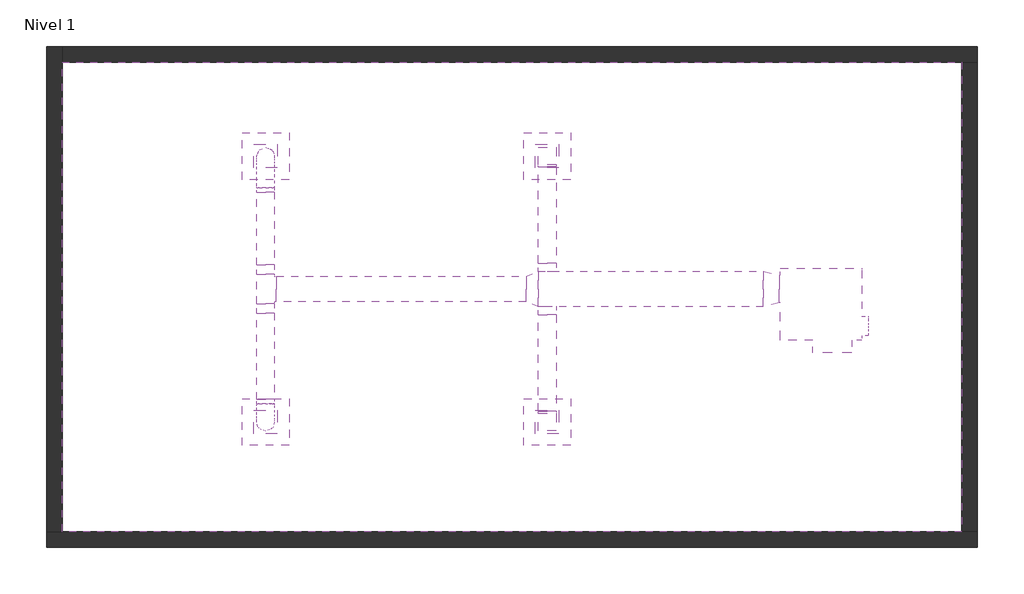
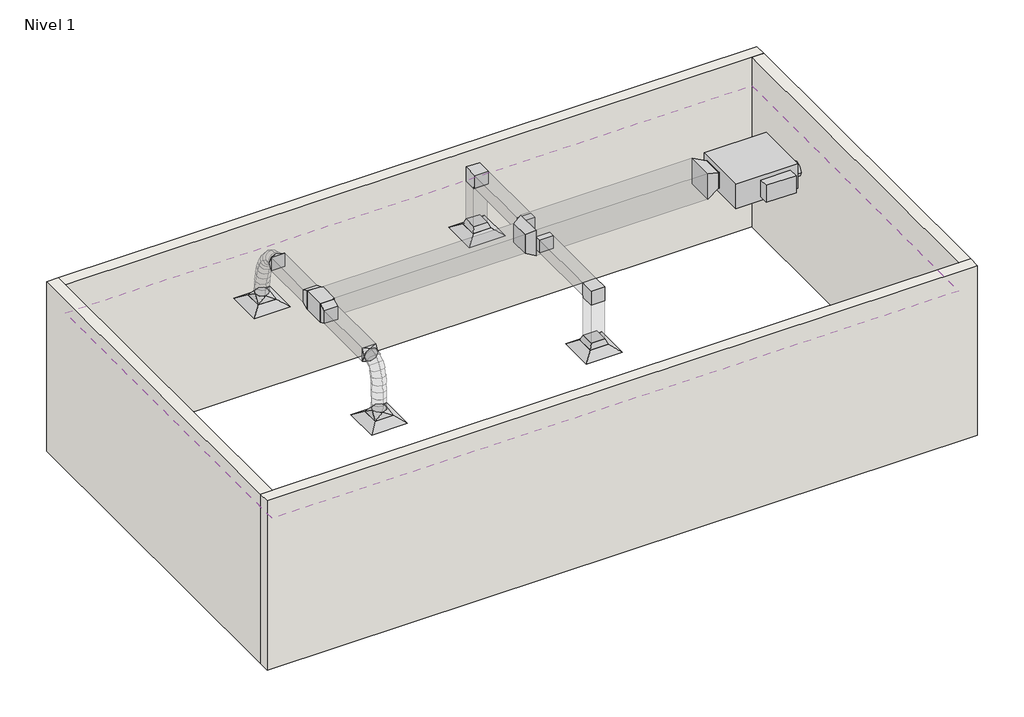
# One storey: 15 duct fittings, 10 duct segments, 4 air terminals, 4 walls, 1 covering, 1 proxy.
"""IFC4 building model written with IfcOpenShell, lengths in millimetres."""

from ifc_helpers import new_model, si_unit, frame, origin, origin_with_axes, place, context, project, spatial, polyline, circle_curve, ellipse_curve, outline, extrude, faceted_brep, transform, mapped, element, save
from ifc_brep_helpers import plane_surface, cylinder_surface, advanced_brep
from components import air_terminal_ff221211, mechanical_equipment_cafec42d, duct_fitting_45_grados_29309759, duct_fitting_45_grados_a4e4c17c, duct_fitting_45_grados_9b682b84, duct_fitting_45_grados_17163ae1, duct_fitting_45_grados_72c16622, duct_fitting_45_grados_1f0bbba1, norma_8356d3b3, norma_0cd4d4be, norma_4c01d837, norma_9371bbf1

model = new_model("IFC4")

# Units and contexts
model_context = context("Model", 3, world=origin())
ifc_project = project(units=[si_unit("LENGTHUNIT", "METRE", prefix="MILLI")], contexts=[model_context])

# Site, building, storey
site = spatial("IfcSite", under=ifc_project)
building = spatial("IfcBuilding", under=site)
storey = spatial("IfcBuildingStorey", under=building, Name="Nivel 1", Elevation=0.0)

# Air terminals
placement = place(None, origin())
air_terminal_shape = air_terminal_ff221211(model_context)
element("IfcAirTerminal", 1, ObjectType="M_Difusor de suministro : Cara 600 x 600 Conexión 300 x 300", at=placement, inside=storey, context=model_context, shape_type="MappedRepresentation", body=[
    mapped(air_terminal_shape, transform((-116.1538462, 5337.3397436, 2500.0), x_axis=(1.0, 0.0, 0.0), y_axis=(0.0, 1.0, 0.0), z_axis=(0.0, 0.0, 1.0))),
])
element("IfcAirTerminal", 2, ObjectType="M_Difusor de suministro : Cara 600 x 600 Conexión 300 x 300", at=placement, inside=storey, context=model_context, shape_type="MappedRepresentation", body=[
    mapped(air_terminal_shape, transform((3483.8461538, 5337.3397436, 2500.0), x_axis=(1.0, 0.0, 0.0), y_axis=(0.0, 1.0, 0.0), z_axis=(0.0, 0.0, 1.0))),
])
element("IfcAirTerminal", 3, ObjectType="M_Difusor de suministro : Cara 600 x 600 Conexión 300 x 300", at=placement, inside=storey, context=model_context, shape_type="MappedRepresentation", body=[
    mapped(air_terminal_shape, transform((3483.8461538, 1937.3397436, 2500.0), x_axis=(1.0, 0.0, 0.0), y_axis=(0.0, 1.0, 0.0), z_axis=(0.0, 0.0, 1.0))),
])
element("IfcAirTerminal", 4, ObjectType="M_Difusor de suministro : Cara 600 x 600 Conexión 300 x 300", at=placement, inside=storey, context=model_context, shape_type="MappedRepresentation", body=[
    mapped(air_terminal_shape, transform((-116.1538462, 1937.3397436, 2500.0), x_axis=(1.0, 0.0, 0.0), y_axis=(0.0, 1.0, 0.0), z_axis=(0.0, 0.0, 1.0))),
])

# Proxy
mechanical_equipment_shape = mechanical_equipment_cafec42d(model_context)
element("IfcBuildingElementProxy", 5, Name="M_Unidad VAV - Alimentada por ventilador paralelo : Tamaño 4 - Entrada 250 mm", ObjectType="M_Unidad VAV - Alimentada por ventilador paralelo : Tamaño 4 - Entrada 250 mm", at=placement, inside=storey, context=model_context, shape_type="MappedRepresentation", body=[
    mapped(mechanical_equipment_shape, transform((6983.8461538, 3442.3397436, 3500.0), x_axis=(-1.0, 0.0, 0.0), y_axis=(0.0, -1.0, 0.0), z_axis=(0.0, 0.0, 1.0))),
])

# Covering
element("IfcCovering", 6, ObjectType="Rejilla 600 x 600 mm", at=placement, inside=storey, context=model_context, shape_type="SweptSolid", body=[
    extrude(outline(polyline([(8783.8461538, 537.3397436), (-2716.1538462, 537.3397436), (-2716.1538462, 6537.3397436), (8783.8461538, 6537.3397436), (8783.8461538, 537.3397436)])), frame((0.0, 0.0, 2500.0), z_axis=(0.0, 0.0, 1.0), x_axis=(1.0, 0.0, 0.0)), (0.0, 0.0, 1.0), 52.0),
])

# Duct fittings
duct_fitting_45_grados_shape = duct_fitting_45_grados_29309759(model_context)
element("IfcDuctFitting", 7, ObjectType="M_Transición rectangular - Ángulo : 45 grados", at=placement, inside=storey, context=model_context, shape_type="MappedRepresentation", body=[
    mapped(duct_fitting_45_grados_shape, transform((6448.8461538, 3637.3397436, 3500.0), x_axis=(-1.0, 0.0, 0.0), y_axis=(0.0, -1.0, 0.0), z_axis=(0.0, 0.0, 1.0))),
])
duct_fitting_45_grados_2_shape = duct_fitting_45_grados_a4e4c17c(model_context)
element("IfcDuctFitting", 8, ObjectType="M_Transición rectangular - Ángulo : 45 grados", at=placement, inside=storey, context=model_context, shape_type="MappedRepresentation", body=[
    mapped(duct_fitting_45_grados_2_shape, transform((3483.8461538, 5337.3397436, 2601.6), x_axis=(0.0, 0.0, 1.0), y_axis=(1.0, 0.0, 0.0), z_axis=(0.0, 1.0, 0.0))),
])
element("IfcDuctFitting", 9, ObjectType="M_Transición rectangular - Ángulo : 45 grados", at=placement, inside=storey, context=model_context, shape_type="MappedRepresentation", body=[
    mapped(duct_fitting_45_grados_2_shape, transform((3483.8461538, 1937.3397436, 2601.6), x_axis=(0.0, 0.0, 1.0), y_axis=(1.0, 0.0, 0.0), z_axis=(0.0, 1.0, 0.0))),
])
duct_fitting_45_grados_3_shape = duct_fitting_45_grados_9b682b84(model_context)
element("IfcDuctFitting", 10, ObjectType="M_Transición rectangular - Ángulo : 45 grados", at=placement, inside=storey, context=model_context, shape_type="MappedRepresentation", body=[
    mapped(duct_fitting_45_grados_3_shape, transform((3366.638001, 3637.3397436, 3500.0), x_axis=(-1.0, 0.0, 0.0), y_axis=(0.0, -1.0, 0.0), z_axis=(0.0, 0.0, 1.0))),
])
duct_fitting_45_grados_4_shape = duct_fitting_45_grados_17163ae1(model_context)
element("IfcDuctFitting", 11, ObjectType="M_Transición de rectangular a redondo - Ángulo : 45 grados", at=placement, inside=storey, context=model_context, shape_type="MappedRepresentation", body=[
    mapped(duct_fitting_45_grados_4_shape, transform((-116.1538462, 4874.8397436, 3500.0), x_axis=(0.0, 1.0, 0.0), y_axis=(-1.0, 0.0, 0.0), z_axis=(0.0, 0.0, 1.0))),
])
element("IfcDuctFitting", 12, ObjectType="M_Transición de rectangular a redondo - Ángulo : 45 grados", at=placement, inside=storey, context=model_context, shape_type="MappedRepresentation", body=[
    mapped(duct_fitting_45_grados_4_shape, transform((-116.1538462, 2229.1290655, 3500.0), x_axis=(0.0, -1.0, 0.0), y_axis=(1.0, 0.0, 0.0), z_axis=(0.0, 0.0, 1.0))),
])
duct_fitting_45_grados_5_shape = duct_fitting_45_grados_72c16622(model_context)
element("IfcDuctFitting", 13, ObjectType="M_Transición de rectangular a redondo - Ángulo : 45 grados", at=placement, inside=storey, context=model_context, shape_type="MappedRepresentation", body=[
    mapped(duct_fitting_45_grados_5_shape, transform((-116.1538462, 5337.3397436, 2601.6), x_axis=(0.0, 0.0, 1.0), y_axis=(-1.0, 0.0, 0.0), z_axis=(0.0, -1.0, 0.0))),
])
element("IfcDuctFitting", 14, ObjectType="M_Transición de rectangular a redondo - Ángulo : 45 grados", at=placement, inside=storey, context=model_context, shape_type="MappedRepresentation", body=[
    mapped(duct_fitting_45_grados_5_shape, transform((-116.1538462, 1937.3397436, 2601.6), x_axis=(0.0, 0.0, 1.0), y_axis=(-1.0, 0.0, 0.0), z_axis=(0.0, -1.0, 0.0))),
])
duct_fitting_45_grados_6_shape = duct_fitting_45_grados_1f0bbba1(model_context)
element("IfcDuctFitting", 15, ObjectType="M_Transición rectangular - Ángulo : 45 grados", at=placement, inside=storey, context=model_context, shape_type="MappedRepresentation", body=[
    mapped(duct_fitting_45_grados_6_shape, transform((-116.1538462, 3824.8397436, 3500.0), x_axis=(0.0, 1.0, 0.0), y_axis=(-1.0, 0.0, 0.0), z_axis=(0.0, 0.0, 1.0))),
])
element("IfcDuctFitting", 16, ObjectType="M_Transición rectangular - Ángulo : 45 grados", at=placement, inside=storey, context=model_context, shape_type="MappedRepresentation", body=[
    mapped(duct_fitting_45_grados_6_shape, transform((-116.1538462, 3449.8397436, 3500.0), x_axis=(0.0, -1.0, 0.0), y_axis=(1.0, 0.0, 0.0), z_axis=(0.0, 0.0, 1.0))),
])
norma_shape = norma_8356d3b3(model_context)
element("IfcDuctFitting", 17, ObjectType="M_Codo rectangular - Biselado : Norma", at=placement, inside=storey, context=model_context, shape_type="MappedRepresentation", body=[
    mapped(norma_shape, transform((3483.8461538, 5337.3397436, 3500.0), x_axis=(0.0, 0.0, 1.0), y_axis=(0.0, -1.0, 0.0), z_axis=(1.0, 0.0, 0.0))),
])
element("IfcDuctFitting", 18, ObjectType="M_Codo rectangular - Biselado : Norma", at=placement, inside=storey, context=model_context, shape_type="MappedRepresentation", body=[
    mapped(norma_shape, transform((3483.8461538, 1937.3397436, 3500.0), x_axis=(0.0, 0.0, 1.0), y_axis=(0.0, 1.0, 0.0), z_axis=(-1.0, 0.0, 0.0))),
])
norma_2_shape = norma_0cd4d4be(model_context)
element("IfcDuctFitting", 19, ObjectType="M_Toma de derivación rectangular : Norma", at=placement, inside=storey, context=model_context, shape_type="MappedRepresentation", body=[
    mapped(norma_2_shape, transform((3483.8461538, 3862.3397436, 3500.0), x_axis=(0.0, 1.0, 0.0), y_axis=(1.0, 0.0, 0.0), z_axis=(0.0, 0.0, -1.0))),
])
norma_3_shape = norma_4c01d837(model_context)
element("IfcDuctFitting", 20, ObjectType="M_Toma de derivación rectangular : Norma", at=placement, inside=storey, context=model_context, shape_type="MappedRepresentation", body=[
    mapped(norma_3_shape, transform((3483.8461538, 3412.3397436, 3500.0), x_axis=(0.0, -1.0, 0.0), y_axis=(-1.0, 0.0, 0.0), z_axis=(0.0, 0.0, -1.0))),
])
norma_4_shape = norma_9371bbf1(model_context)
element("IfcDuctFitting", 21, ObjectType="M_Te rectangular : Norma", at=placement, inside=storey, context=model_context, shape_type="MappedRepresentation", body=[
    mapped(norma_4_shape, transform((-116.1538462, 3637.3397436, 3500.0), x_axis=(0.0, 1.0, 0.0), y_axis=(-1.0, 0.0, 0.0), z_axis=(0.0, 0.0, 1.0))),
])

# Duct segments
element("IfcDuctSegment", 22, ObjectType="Codos en ángulo recto / Injertos", at=placement, inside=storey, context=model_context, shape_type="SweptSolid", body=[
    extrude(outline(polyline([(3371.3461538, 5199.8397436), (3596.3461538, 5199.8397436), (3596.3461538, 3963.9397436), (3371.3461538, 3963.9397436), (3371.3461538, 5199.8397436)])), frame((0.0, 0.0, 3387.5), z_axis=(0.0, 0.0, 1.0), x_axis=(1.0, 0.0, 0.0)), (0.0, 0.0, 1.0), 225.0),
])
element("IfcDuctSegment", 23, ObjectType="Codos en ángulo recto / Injertos", at=placement, inside=storey, context=model_context, shape_type="SweptSolid", body=[
    extrude(outline(polyline([(3596.3461538, 5224.8397436), (3371.3461538, 5224.8397436), (3371.3461538, 5449.8397436), (3596.3461538, 5449.8397436), (3596.3461538, 5224.8397436)])), frame((0.0, 0.0, 2692.1330086), z_axis=(0.0, 0.0, 1.0), x_axis=(1.0, 0.0, 0.0)), (0.0, 0.0, 1.0), 670.3669914),
])
element("IfcDuctSegment", 24, ObjectType="Codos en ángulo recto / Injertos", at=placement, inside=storey, context=model_context, shape_type="SweptSolid", body=[
    extrude(outline(polyline([(3596.3461538, 1824.8397436), (3371.3461538, 1824.8397436), (3371.3461538, 2049.8397436), (3596.3461538, 2049.8397436), (3596.3461538, 1824.8397436)])), frame((0.0, 0.0, 2692.1330086), z_axis=(0.0, 0.0, 1.0), x_axis=(1.0, 0.0, 0.0)), (0.0, 0.0, 1.0), 670.3669914),
])
element("IfcDuctSegment", 25, ObjectType="Codos en ángulo recto / Injertos", at=placement, inside=storey, context=model_context, shape_type="SweptSolid", body=[
    extrude(outline(polyline([(3596.3461538, 2074.8397436), (3371.3461538, 2074.8397436), (3371.3461538, 3310.7397436), (3596.3461538, 3310.7397436), (3596.3461538, 2074.8397436)])), frame((0.0, 0.0, 3387.5), z_axis=(0.0, 0.0, 1.0), x_axis=(1.0, 0.0, 0.0)), (0.0, 0.0, 1.0), 225.0),
])
element("IfcDuctSegment", 26, ObjectType="Codos en ángulo recto / Injertos", at=placement, inside=storey, context=model_context, shape_type="SweptSolid", body=[
    extrude(outline(polyline([(3215.7496534, 3799.8397436), (3215.7496534, 3474.8397436), (21.3461538, 3474.8397436), (21.3461538, 3799.8397436), (3215.7496534, 3799.8397436)])), frame((0.0, 0.0, 3337.5), z_axis=(0.0, 0.0, 1.0), x_axis=(1.0, 0.0, 0.0)), (0.0, 0.0, 1.0), 325.0),
])
element("IfcDuctSegment", 27, ObjectType="Codos en ángulo recto / Injertos", at=placement, inside=storey, context=model_context, shape_type="SweptSolid", body=[
    extrude(outline(polyline([(6243.638001, 3862.3397436), (6243.638001, 3412.3397436), (3366.638001, 3412.3397436), (3366.638001, 3862.3397436), (6243.638001, 3862.3397436)])), frame((0.0, 0.0, 3275.0), z_axis=(0.0, 0.0, 1.0), x_axis=(1.0, 0.0, 0.0)), (0.0, 0.0, 1.0), 450.0),
])
element("IfcDuctSegment", 28, ObjectType="Codos en ángulo recto / Injertos", at=placement, inside=storey, context=model_context, shape_type="SweptSolid", body=[
    extrude(outline(polyline([(-3.6538462, 3945.5504217), (-228.6538462, 3945.5504217), (-228.6538462, 4874.8397436), (-3.6538462, 4874.8397436), (-3.6538462, 3945.5504217)])), frame((0.0, 0.0, 3387.5), z_axis=(0.0, 0.0, 1.0), x_axis=(1.0, 0.0, 0.0)), (0.0, 0.0, 1.0), 225.0),
])
element("IfcDuctSegment", 29, ObjectType="Codos en ángulo recto / Injertos", at=placement, inside=storey, context=model_context, shape_type="SweptSolid", body=[
    extrude(outline(polyline([(-3.6538462, 2229.1290655), (-228.6538462, 2229.1290655), (-228.6538462, 3329.1290655), (-3.6538462, 3329.1290655), (-3.6538462, 2229.1290655)])), frame((0.0, 0.0, 3387.5), z_axis=(0.0, 0.0, 1.0), x_axis=(1.0, 0.0, 0.0)), (0.0, 0.0, 1.0), 225.0),
])
element("IfcDuctSegment", 30, ObjectType="Flex - Redondo", at=placement, inside=storey, context=model_context, shape_type="AdvancedBrep", body=[
    advanced_brep(
    [(-228.6538462, 4931.0897436, 3500.0), (-116.1538462, 4931.0897436, 3387.5), (-3.6538462, 4931.0897436, 3500.0), (-116.1538462, 4931.0897436, 3612.5), (-228.6538462, 4952.1472058, 3500.0), (-116.1538462, 4938.5090863, 3387.5), (-3.6538462, 4952.1472058, 3500.0), (-116.1538462, 4965.7853253, 3612.5), (-228.6538462, 5337.3397436, 2692.1330086), (-116.1538462, 5449.8397436, 2692.1330086), (-3.6538462, 5337.3397436, 2692.1330086), (-116.1538462, 5224.8397436, 2692.1330086), (-228.6538462, 5024.4079335, 3482.2186749), (-116.1538462, 4980.1765558, 3377.2468121), (-3.6538462, 5024.4079335, 3482.2186749), (-116.1538462, 5068.6393112, 3587.1905378), (-228.6538462, 5103.9190822, 3432.778529), (-116.1538462, 5030.5140084, 3345.9469121), (-3.6538462, 5103.9190822, 3432.778529), (-116.1538462, 5177.3241561, 3519.6101458), (-228.6538462, 5170.3784252, 3357.535306), (-116.1538462, 5078.3546044, 3291.7832615), (-3.6538462, 5170.3784252, 3357.535306), (-116.1538462, 5262.402246, 3423.2873505), (-228.6538462, 5224.5411977, 3262.3447499), (-116.1538462, 5122.7084, 3213.8318887), (-3.6538462, 5224.5411977, 3262.3447499), (-116.1538462, 5326.3739954, 3310.8576111), (-228.6538462, 5267.1626353, 3153.0626046), (-116.1538462, 5160.1563788, 3117.8145863), (-3.6538462, 5267.1626353, 3153.0626046), (-116.1538462, 5374.1688918, 3188.3106228), (-228.6538462, 5298.9979733, 3035.5446139), (-116.1538462, 5189.1659159, 3010.7278479), (-3.6538462, 5298.9979733, 3035.5446139), (-116.1538462, 5408.8300307, 3060.3613798), (-228.6538462, 5320.802447, 2915.6465217), (-116.1538462, 5209.3859614, 2899.5421845), (-3.6538462, 5320.802447, 2915.6465217), (-116.1538462, 5432.2189327, 2931.750859), (-228.6538462, 5333.331292, 2799.224072), (-116.1538462, 5221.0661251, 2791.0059812), (-3.6538462, 5333.331292, 2799.224072), (-116.1538462, 5445.596459, 2807.4421628), (-228.6538462, 5337.3397436, 2696.3409716), (-116.1538462, 5224.8397436, 2694.1502338), (-3.6538462, 5337.3397436, 2696.3409716), (-116.1538462, 5449.8397436, 2698.5317094)],
    [
        (0, 1, circle_curve(frame((-116.1538462, 4931.0897436, 3500.0), z_axis=(0.0, -1.0, 0.0), x_axis=(-1.0, 0.0, 0.0)), 112.5)),
        (1, 2, circle_curve(frame((-116.1538462, 4931.0897436, 3500.0), z_axis=(0.0, -1.0, 0.0), x_axis=(-1.0, 0.0, 0.0)), 112.5)),
        (2, 3, circle_curve(frame((-116.1538462, 4931.0897436, 3500.0), z_axis=(0.0, -1.0, 0.0), x_axis=(-1.0, 0.0, 0.0)), 112.5)),
        (3, 0, circle_curve(frame((-116.1538462, 4931.0897436, 3500.0), z_axis=(0.0, -1.0, 0.0), x_axis=(-1.0, 0.0, 0.0)), 112.5)),
        (0, 4),
        (4, 5, ellipse_curve(frame((-116.1538462, 4952.1472058, 3500.0), z_axis=(0.0, -0.9927319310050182, 0.12034663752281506), x_axis=(0.0, -0.12034663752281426, -0.9927319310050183)), 113.3236441, 112.5)),
        (5, 1),
        (5, 6, ellipse_curve(frame((-116.1538462, 4952.1472058, 3500.0), z_axis=(0.0, -0.9927319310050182, 0.12034663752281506), x_axis=(0.0, -0.12034663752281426, -0.9927319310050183)), 113.3236441, 112.5)),
        (6, 2),
        (6, 7, ellipse_curve(frame((-116.1538462, 4952.1472058, 3500.0), z_axis=(0.0, -0.9927319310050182, 0.12034663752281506), x_axis=(0.0, -0.12034663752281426, -0.9927319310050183)), 113.3236441, 112.5)),
        (7, 3),
        (7, 4, ellipse_curve(frame((-116.1538462, 4952.1472058, 3500.0), z_axis=(0.0, -0.9927319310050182, 0.12034663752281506), x_axis=(0.0, -0.12034663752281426, -0.9927319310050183)), 113.3236441, 112.5)),
        (8, 9, circle_curve(frame((-116.1538462, 5337.3397436, 2692.1330086), z_axis=(0.0, 0.0, -1.0), x_axis=(-1.0, 0.0, 0.0)), 112.5)),
        (9, 10, circle_curve(frame((-116.1538462, 5337.3397436, 2692.1330086), z_axis=(0.0, 0.0, -1.0), x_axis=(-1.0, 0.0, 0.0)), 112.5)),
        (10, 11, circle_curve(frame((-116.1538462, 5337.3397436, 2692.1330086), z_axis=(0.0, 0.0, -1.0), x_axis=(-1.0, 0.0, 0.0)), 112.5)),
        (11, 8, circle_curve(frame((-116.1538462, 5337.3397436, 2692.1330086), z_axis=(0.0, 0.0, -1.0), x_axis=(-1.0, 0.0, 0.0)), 112.5)),
        (4, 12),
        (12, 13, ellipse_curve(frame((-116.1538462, 5024.4079335, 3482.2186749), z_axis=(0.0, -0.9215326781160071, 0.3883008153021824), x_axis=(0.0, -0.3883008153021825, -0.9215326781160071)), 113.9100819, 112.5)),
        (13, 5),
        (13, 14, ellipse_curve(frame((-116.1538462, 5024.4079335, 3482.2186749), z_axis=(0.0, -0.9215326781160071, 0.3883008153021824), x_axis=(0.0, -0.3883008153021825, -0.9215326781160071)), 113.9100819, 112.5)),
        (14, 6),
        (14, 15, ellipse_curve(frame((-116.1538462, 5024.4079335, 3482.2186749), z_axis=(0.0, -0.9215326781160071, 0.3883008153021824), x_axis=(0.0, -0.3883008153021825, -0.9215326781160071)), 113.9100819, 112.5)),
        (15, 7),
        (15, 12, ellipse_curve(frame((-116.1538462, 5024.4079335, 3482.2186749), z_axis=(0.0, -0.9215326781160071, 0.3883008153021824), x_axis=(0.0, -0.3883008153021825, -0.9215326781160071)), 113.9100819, 112.5)),
        (12, 16),
        (16, 17, ellipse_curve(frame((-116.1538462, 5103.9190822, 3432.778529), z_axis=(0.0, -0.7636803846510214, 0.6455945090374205), x_axis=(0.0, -0.6455945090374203, -0.7636803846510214)), 113.7015152, 112.5)),
        (17, 13),
        (17, 18, ellipse_curve(frame((-116.1538462, 5103.9190822, 3432.778529), z_axis=(0.0, -0.7636803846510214, 0.6455945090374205), x_axis=(0.0, -0.6455945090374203, -0.7636803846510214)), 113.7015152, 112.5)),
        (18, 14),
        (18, 19, ellipse_curve(frame((-116.1538462, 5103.9190822, 3432.778529), z_axis=(0.0, -0.7636803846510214, 0.6455945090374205), x_axis=(0.0, -0.6455945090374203, -0.7636803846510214)), 113.7015152, 112.5)),
        (19, 15),
        (19, 16, ellipse_curve(frame((-116.1538462, 5103.9190822, 3432.778529), z_axis=(0.0, -0.7636803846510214, 0.6455945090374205), x_axis=(0.0, -0.6455945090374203, -0.7636803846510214)), 113.7015152, 112.5)),
        (16, 20),
        (20, 21, ellipse_curve(frame((-116.1538462, 5170.3784252, 3357.535306), z_axis=(0.0, -0.5813596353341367, 0.8136467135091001), x_axis=(0.0, -0.8136467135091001, -0.5813596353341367)), 113.100464, 112.5)),
        (21, 17),
        (21, 22, ellipse_curve(frame((-116.1538462, 5170.3784252, 3357.535306), z_axis=(0.0, -0.5813596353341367, 0.8136467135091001), x_axis=(0.0, -0.8136467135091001, -0.5813596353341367)), 113.100464, 112.5)),
        (22, 18),
        (22, 23, ellipse_curve(frame((-116.1538462, 5170.3784252, 3357.535306), z_axis=(0.0, -0.5813596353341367, 0.8136467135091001), x_axis=(0.0, -0.8136467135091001, -0.5813596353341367)), 113.100464, 112.5)),
        (23, 19),
        (23, 20, ellipse_curve(frame((-116.1538462, 5170.3784252, 3357.535306), z_axis=(0.0, -0.5813596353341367, 0.8136467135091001), x_axis=(0.0, -0.8136467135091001, -0.5813596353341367)), 113.100464, 112.5)),
        (20, 24),
        (24, 25, ellipse_curve(frame((-116.1538462, 5224.5411977, 3262.3447499), z_axis=(0.0, -0.4300857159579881, 0.9027880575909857), x_axis=(0.0, -0.9027880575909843, -0.43008571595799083)), 112.7981223, 112.5)),
        (25, 21),
        (25, 26, ellipse_curve(frame((-116.1538462, 5224.5411977, 3262.3447499), z_axis=(0.0, -0.4300857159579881, 0.9027880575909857), x_axis=(0.0, -0.9027880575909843, -0.43008571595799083)), 112.7981223, 112.5)),
        (26, 22),
        (26, 27, ellipse_curve(frame((-116.1538462, 5224.5411977, 3262.3447499), z_axis=(0.0, -0.4300857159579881, 0.9027880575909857), x_axis=(0.0, -0.9027880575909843, -0.43008571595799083)), 112.7981223, 112.5)),
        (27, 23),
        (27, 24, ellipse_curve(frame((-116.1538462, 5224.5411977, 3262.3447499), z_axis=(0.0, -0.4300857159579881, 0.9027880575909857), x_axis=(0.0, -0.9027880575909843, -0.43008571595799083)), 112.7981223, 112.5)),
        (24, 28),
        (28, 29, ellipse_curve(frame((-116.1538462, 5267.1626353, 3153.0626046), z_axis=(0.0, -0.3128647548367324, 0.949797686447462), x_axis=(0.0, -0.9497976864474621, -0.31286475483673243)), 112.6621574, 112.5)),
        (29, 25),
        (29, 30, ellipse_curve(frame((-116.1538462, 5267.1626353, 3153.0626046), z_axis=(0.0, -0.3128647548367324, 0.949797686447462), x_axis=(0.0, -0.9497976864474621, -0.31286475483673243)), 112.6621574, 112.5)),
        (30, 26),
        (30, 31, ellipse_curve(frame((-116.1538462, 5267.1626353, 3153.0626046), z_axis=(0.0, -0.3128647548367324, 0.949797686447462), x_axis=(0.0, -0.9497976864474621, -0.31286475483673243)), 112.6621574, 112.5)),
        (31, 27),
        (31, 28, ellipse_curve(frame((-116.1538462, 5267.1626353, 3153.0626046), z_axis=(0.0, -0.3128647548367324, 0.949797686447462), x_axis=(0.0, -0.9497976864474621, -0.31286475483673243)), 112.6621574, 112.5)),
        (28, 32),
        (32, 33, ellipse_curve(frame((-116.1538462, 5298.9979733, 3035.5446139), z_axis=(0.0, -0.22039589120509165, 0.9754105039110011), x_axis=(0.0, -0.975410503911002, -0.22039589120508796)), 112.6008557, 112.5)),
        (33, 29),
        (33, 34, ellipse_curve(frame((-116.1538462, 5298.9979733, 3035.5446139), z_axis=(0.0, -0.22039589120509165, 0.9754105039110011), x_axis=(0.0, -0.975410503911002, -0.22039589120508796)), 112.6008557, 112.5)),
        (34, 30),
        (34, 35, ellipse_curve(frame((-116.1538462, 5298.9979733, 3035.5446139), z_axis=(0.0, -0.22039589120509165, 0.9754105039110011), x_axis=(0.0, -0.975410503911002, -0.22039589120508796)), 112.6008557, 112.5)),
        (35, 31),
        (35, 32, ellipse_curve(frame((-116.1538462, 5298.9979733, 3035.5446139), z_axis=(0.0, -0.22039589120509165, 0.9754105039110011), x_axis=(0.0, -0.975410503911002, -0.22039589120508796)), 112.6008557, 112.5)),
        (32, 36),
        (36, 37, ellipse_curve(frame((-116.1538462, 5320.802447, 2915.6465217), z_axis=(0.0, -0.14305512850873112, 0.9897147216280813), x_axis=(0.0, -0.9897147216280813, -0.14305512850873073)), 112.5743441, 112.5)),
        (37, 33),
        (37, 38, ellipse_curve(frame((-116.1538462, 5320.802447, 2915.6465217), z_axis=(0.0, -0.14305512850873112, 0.9897147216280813), x_axis=(0.0, -0.9897147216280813, -0.14305512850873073)), 112.5743441, 112.5)),
        (38, 34),
        (38, 39, ellipse_curve(frame((-116.1538462, 5320.802447, 2915.6465217), z_axis=(0.0, -0.14305512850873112, 0.9897147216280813), x_axis=(0.0, -0.9897147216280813, -0.14305512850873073)), 112.5743441, 112.5)),
        (39, 35),
        (39, 36, ellipse_curve(frame((-116.1538462, 5320.802447, 2915.6465217), z_axis=(0.0, -0.14305512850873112, 0.9897147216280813), x_axis=(0.0, -0.9897147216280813, -0.14305512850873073)), 112.5743441, 112.5)),
        (36, 40),
        (40, 41, ellipse_curve(frame((-116.1538462, 5333.331292, 2799.224072), z_axis=(0.0, -0.07300715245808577, 0.9973314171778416), x_axis=(0.0, -0.9973314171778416, -0.07300715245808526)), 112.5655575, 112.5)),
        (41, 37),
        (41, 42, ellipse_curve(frame((-116.1538462, 5333.331292, 2799.224072), z_axis=(0.0, -0.07300715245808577, 0.9973314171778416), x_axis=(0.0, -0.9973314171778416, -0.07300715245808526)), 112.5655575, 112.5)),
        (42, 38),
        (42, 43, ellipse_curve(frame((-116.1538462, 5333.331292, 2799.224072), z_axis=(0.0, -0.07300715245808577, 0.9973314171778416), x_axis=(0.0, -0.9973314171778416, -0.07300715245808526)), 112.5655575, 112.5)),
        (43, 39),
        (43, 40, ellipse_curve(frame((-116.1538462, 5333.331292, 2799.224072), z_axis=(0.0, -0.07300715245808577, 0.9973314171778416), x_axis=(0.0, -0.9973314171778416, -0.07300715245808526)), 112.5655575, 112.5)),
        (40, 44),
        (44, 45, ellipse_curve(frame((-116.1538462, 5337.3397436, 2696.3409716), z_axis=(0.0, -0.019469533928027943, 0.9998104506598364), x_axis=(0.0, -0.9998104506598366, -0.01946953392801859)), 112.5213283, 112.5)),
        (45, 41),
        (45, 46, ellipse_curve(frame((-116.1538462, 5337.3397436, 2696.3409716), z_axis=(0.0, -0.019469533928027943, 0.9998104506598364), x_axis=(0.0, -0.9998104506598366, -0.01946953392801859)), 112.5213283, 112.5)),
        (46, 42),
        (46, 47, ellipse_curve(frame((-116.1538462, 5337.3397436, 2696.3409716), z_axis=(0.0, -0.019469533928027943, 0.9998104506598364), x_axis=(0.0, -0.9998104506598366, -0.01946953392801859)), 112.5213283, 112.5)),
        (47, 43),
        (47, 44, ellipse_curve(frame((-116.1538462, 5337.3397436, 2696.3409716), z_axis=(0.0, -0.019469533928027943, 0.9998104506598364), x_axis=(0.0, -0.9998104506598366, -0.01946953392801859)), 112.5213283, 112.5)),
        (44, 8),
        (11, 45),
        (10, 46),
        (9, 47),
    ],
    [
        plane_surface(frame((-228.6538462, 4931.0897436, 3500.0), z_axis=(0.0, -1.0, 0.0), x_axis=(0.0, 0.0, 1.0))),
        cylinder_surface(frame((-116.1538462, 4931.0897436, 3500.0), z_axis=(0.0, -1.0, 0.0), x_axis=(-1.0, 0.0, 0.0)), 112.5),
        plane_surface(frame((-116.1538462, 5224.8397436, 2692.1330086), z_axis=(0.0, 0.0, -1.0), x_axis=(-1.0, 0.0, 0.0))),
        cylinder_surface(frame((-116.1538462, 4952.1472058, 3500.0), z_axis=(0.0, -0.9710333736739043, 0.23894389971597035), x_axis=(-1.0, 0.0, 0.0)), 112.5),
        cylinder_surface(frame((-116.1538462, 5024.4079335, 3482.2186749), z_axis=(0.0, -0.8492168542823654, 0.5280442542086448), x_axis=(-1.0, 0.0, 0.0)), 112.5),
        cylinder_surface(frame((-116.1538462, 5103.9190822, 3432.778529), z_axis=(0.0, -0.6620038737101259, 0.7495004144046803), x_axis=(-1.0, 0.0, 0.0)), 112.5),
        cylinder_surface(frame((-116.1538462, 5170.3784252, 3357.535306), z_axis=(0.0, -0.49454238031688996, 0.869153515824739), x_axis=(-1.0, 0.0, 0.0)), 112.5),
        cylinder_surface(frame((-116.1538462, 5224.5411977, 3262.3447499), z_axis=(0.0, -0.3633556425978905, 0.9316505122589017), x_axis=(-1.0, 0.0, 0.0)), 112.5),
        cylinder_surface(frame((-116.1538462, 5267.1626353, 3153.0626046), z_axis=(0.0, -0.2614732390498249, 0.9652107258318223), x_axis=(-1.0, 0.0, 0.0)), 112.5),
        cylinder_surface(frame((-116.1538462, 5298.9979733, 3035.5446139), z_axis=(0.0, -0.17892372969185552, 0.9838629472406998), x_axis=(-1.0, 0.0, 0.0)), 112.5),
        cylinder_surface(frame((-116.1538462, 5320.802447, 2915.6465217), z_axis=(0.0, -0.10699758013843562, 0.9942592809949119), x_axis=(-1.0, 0.0, 0.0)), 112.5),
        cylinder_surface(frame((-116.1538462, 5333.331292, 2799.224072), z_axis=(0.0, -0.03893168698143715, 0.9992418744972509), x_axis=(-1.0, 0.0, 0.0)), 112.5),
        cylinder_surface(frame((-116.1538462, 5337.3397436, 2696.3409716), z_axis=(0.0, 0.0, 1.0), x_axis=(-1.0, 0.0, 0.0)), 112.5),
    ],
    [
        (0, [[1, 2, 3, 4]]),
        (1, [[-1, 5, 6, 7]]),
        (1, [[-2, -7, 8, 9]]),
        (1, [[-3, -9, 10, 11]]),
        (1, [[-4, -11, 12, -5]]),
        (2, [[13, 14, 15, 16]]),
        (3, [[-6, 17, 18, 19]]),
        (3, [[-8, -19, 20, 21]]),
        (3, [[-10, -21, 22, 23]]),
        (3, [[-12, -23, 24, -17]]),
        (4, [[-18, 25, 26, 27]]),
        (4, [[-20, -27, 28, 29]]),
        (4, [[-22, -29, 30, 31]]),
        (4, [[-24, -31, 32, -25]]),
        (5, [[-26, 33, 34, 35]]),
        (5, [[-28, -35, 36, 37]]),
        (5, [[-30, -37, 38, 39]]),
        (5, [[-32, -39, 40, -33]]),
        (6, [[-34, 41, 42, 43]]),
        (6, [[-36, -43, 44, 45]]),
        (6, [[-38, -45, 46, 47]]),
        (6, [[-40, -47, 48, -41]]),
        (7, [[-42, 49, 50, 51]]),
        (7, [[-44, -51, 52, 53]]),
        (7, [[-46, -53, 54, 55]]),
        (7, [[-48, -55, 56, -49]]),
        (8, [[-50, 57, 58, 59]]),
        (8, [[-52, -59, 60, 61]]),
        (8, [[-54, -61, 62, 63]]),
        (8, [[-56, -63, 64, -57]]),
        (9, [[-58, 65, 66, 67]]),
        (9, [[-60, -67, 68, 69]]),
        (9, [[-62, -69, 70, 71]]),
        (9, [[-64, -71, 72, -65]]),
        (10, [[-66, 73, 74, 75]]),
        (10, [[-68, -75, 76, 77]]),
        (10, [[-70, -77, 78, 79]]),
        (10, [[-72, -79, 80, -73]]),
        (11, [[-74, 81, 82, 83]]),
        (11, [[-76, -83, 84, 85]]),
        (11, [[-78, -85, 86, 87]]),
        (11, [[-80, -87, 88, -81]]),
        (12, [[-82, 89, -16, 90]]),
        (12, [[-84, -90, -15, 91]]),
        (12, [[-86, -91, -14, 92]]),
        (12, [[-88, -92, -13, -89]]),
    ],
),
])
element("IfcDuctSegment", 31, ObjectType="Flex - Redondo", at=placement, inside=storey, context=model_context, shape_type="AdvancedBrep", body=[
    advanced_brep(
    [(-3.6538462, 2172.8790655, 3500.0), (-116.1538462, 2172.8790655, 3387.5), (-228.6538462, 2172.8790655, 3500.0), (-116.1538462, 2172.8790655, 3612.5), (-3.6538462, 2148.1453195, 3500.0), (-116.1538462, 2165.8522575, 3387.5), (-228.6538462, 2148.1453195, 3500.0), (-116.1538462, 2130.4383816, 3612.5), (-3.6538462, 1937.3397436, 2692.1330086), (-116.1538462, 1824.8470417, 2690.8515934), (-228.6538462, 1937.3397436, 2692.1330086), (-116.1538462, 2049.8324455, 2693.4144238), (-3.6538462, 2090.9247501, 3481.5299751), (-116.1538462, 2146.4351872, 3381.2324326), (-228.6538462, 2090.9247501, 3481.5299751), (-116.1538462, 2035.414313, 3581.8275175), (-3.6538462, 2030.0300345, 3430.3680795), (-116.1538462, 2118.3623768, 3357.6465076), (-228.6538462, 2030.0300345, 3430.3680795), (-116.1538462, 1941.6976922, 3503.0896513), (-3.6538462, 1987.1461559, 3352.8865819), (-116.1538462, 2091.7691446, 3309.5985343), (-228.6538462, 1987.1461559, 3352.8865819), (-116.1538462, 1882.5231672, 3396.1746296), (-3.6538462, 1959.2243515, 3255.4577513), (-116.1538462, 2069.4797403, 3231.8230952), (-228.6538462, 1959.2243515, 3255.4577513), (-116.1538462, 1848.9689627, 3279.0924074), (-3.6538462, 1943.2158585, 3144.4538563), (-116.1538462, 2055.2296142, 3133.0118272), (-228.6538462, 1943.2158585, 3144.4538563), (-116.1538462, 1831.2021027, 3155.8958855), (-3.6538462, 1936.071914, 3026.2471658), (-116.1538462, 2048.5340259, 3022.2238243), (-228.6538462, 1936.071914, 3026.2471658), (-116.1538462, 1823.6098021, 3030.2705073), (-3.6538462, 1934.7437552, 2907.2099485), (-116.1538462, 2047.2517116, 2907.2954544), (-228.6538462, 1934.7437552, 2907.2099485), (-116.1538462, 1822.2357988, 2907.1244425), (-3.6538462, 1936.1826194, 2793.7144731), (-116.1538462, 2048.6735797, 2795.1406023), (-228.6538462, 1936.1826194, 2793.7144731), (-116.1538462, 1823.691659, 2792.288344)],
    [
        (0, 1, circle_curve(frame((-116.1538462, 2172.8790655, 3500.0), z_axis=(0.0, 1.0, 0.0), x_axis=(1.0, 0.0, 0.0)), 112.5)),
        (1, 2, circle_curve(frame((-116.1538462, 2172.8790655, 3500.0), z_axis=(0.0, 1.0, 0.0), x_axis=(1.0, 0.0, 0.0)), 112.5)),
        (2, 3, circle_curve(frame((-116.1538462, 2172.8790655, 3500.0), z_axis=(0.0, 1.0, 0.0), x_axis=(1.0, 0.0, 0.0)), 112.5)),
        (3, 0, circle_curve(frame((-116.1538462, 2172.8790655, 3500.0), z_axis=(0.0, 1.0, 0.0), x_axis=(1.0, 0.0, 0.0)), 112.5)),
        (0, 4),
        (4, 5, ellipse_curve(frame((-116.1538462, 2148.1453195, 3500.0), z_axis=(0.0, 0.9878388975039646, 0.15548090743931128), x_axis=(0.0, 0.15548090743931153, -0.9878388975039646)), 113.8849668, 112.5)),
        (5, 1),
        (5, 6, ellipse_curve(frame((-116.1538462, 2148.1453195, 3500.0), z_axis=(0.0, 0.9878388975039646, 0.15548090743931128), x_axis=(0.0, 0.15548090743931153, -0.9878388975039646)), 113.8849668, 112.5)),
        (6, 2),
        (6, 7, ellipse_curve(frame((-116.1538462, 2148.1453195, 3500.0), z_axis=(0.0, 0.9878388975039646, 0.15548090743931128), x_axis=(0.0, 0.15548090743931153, -0.9878388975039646)), 113.8849668, 112.5)),
        (7, 3),
        (7, 4, ellipse_curve(frame((-116.1538462, 2148.1453195, 3500.0), z_axis=(0.0, 0.9878388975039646, 0.15548090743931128), x_axis=(0.0, 0.15548090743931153, -0.9878388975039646)), 113.8849668, 112.5)),
        (8, 9, circle_curve(frame((-116.1538462, 1937.3397436, 2692.1330086), z_axis=(0.0, 0.011390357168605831, -0.9999351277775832), x_axis=(1.0, 0.0, 0.0)), 112.5)),
        (9, 10, circle_curve(frame((-116.1538462, 1937.3397436, 2692.1330086), z_axis=(0.0, 0.011390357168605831, -0.9999351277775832), x_axis=(1.0, 0.0, 0.0)), 112.5)),
        (10, 11, circle_curve(frame((-116.1538462, 1937.3397436, 2692.1330086), z_axis=(0.0, 0.011390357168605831, -0.9999351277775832), x_axis=(1.0, 0.0, 0.0)), 112.5)),
        (11, 8, circle_curve(frame((-116.1538462, 1937.3397436, 2692.1330086), z_axis=(0.0, 0.011390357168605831, -0.9999351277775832), x_axis=(1.0, 0.0, 0.0)), 112.5)),
        (4, 12),
        (12, 13, ellipse_curve(frame((-116.1538462, 2090.9247501, 3481.5299751), z_axis=(0.0, 0.874935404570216, 0.48423964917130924), x_axis=(0.0, 0.48423964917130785, -0.8749354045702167)), 114.6342254, 112.5)),
        (13, 5),
        (13, 14, ellipse_curve(frame((-116.1538462, 2090.9247501, 3481.5299751), z_axis=(0.0, 0.874935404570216, 0.48423964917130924), x_axis=(0.0, 0.48423964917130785, -0.8749354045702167)), 114.6342254, 112.5)),
        (14, 6),
        (14, 15, ellipse_curve(frame((-116.1538462, 2090.9247501, 3481.5299751), z_axis=(0.0, 0.874935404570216, 0.48423964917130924), x_axis=(0.0, 0.48423964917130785, -0.8749354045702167)), 114.6342254, 112.5)),
        (15, 7),
        (15, 12, ellipse_curve(frame((-116.1538462, 2090.9247501, 3481.5299751), z_axis=(0.0, 0.874935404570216, 0.48423964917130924), x_axis=(0.0, 0.48423964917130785, -0.8749354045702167)), 114.6342254, 112.5)),
        (12, 16),
        (16, 17, ellipse_curve(frame((-116.1538462, 2030.0300345, 3430.3680795), z_axis=(0.0, 0.6355889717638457, 0.7720276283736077), x_axis=(0.0, 0.772027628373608, -0.6355889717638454)), 114.4160378, 112.5)),
        (17, 13),
        (17, 18, ellipse_curve(frame((-116.1538462, 2030.0300345, 3430.3680795), z_axis=(0.0, 0.6355889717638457, 0.7720276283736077), x_axis=(0.0, 0.772027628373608, -0.6355889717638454)), 114.4160378, 112.5)),
        (18, 14),
        (18, 19, ellipse_curve(frame((-116.1538462, 2030.0300345, 3430.3680795), z_axis=(0.0, 0.6355889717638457, 0.7720276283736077), x_axis=(0.0, 0.772027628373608, -0.6355889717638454)), 114.4160378, 112.5)),
        (19, 15),
        (19, 16, ellipse_curve(frame((-116.1538462, 2030.0300345, 3430.3680795), z_axis=(0.0, 0.6355889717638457, 0.7720276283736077), x_axis=(0.0, 0.772027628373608, -0.6355889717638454)), 114.4160378, 112.5)),
        (16, 20),
        (20, 21, ellipse_curve(frame((-116.1538462, 1987.1461559, 3352.8865819), z_axis=(0.0, 0.38231994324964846, 0.9240300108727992), x_axis=(0.0, 0.9240300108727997, -0.3823199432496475)), 113.2246653, 112.5)),
        (21, 17),
        (21, 22, ellipse_curve(frame((-116.1538462, 1987.1461559, 3352.8865819), z_axis=(0.0, 0.38231994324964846, 0.9240300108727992), x_axis=(0.0, 0.9240300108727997, -0.3823199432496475)), 113.2246653, 112.5)),
        (22, 18),
        (22, 23, ellipse_curve(frame((-116.1538462, 1987.1461559, 3352.8865819), z_axis=(0.0, 0.38231994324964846, 0.9240300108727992), x_axis=(0.0, 0.9240300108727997, -0.3823199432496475)), 113.2246653, 112.5)),
        (23, 19),
        (23, 20, ellipse_curve(frame((-116.1538462, 1987.1461559, 3352.8865819), z_axis=(0.0, 0.38231994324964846, 0.9240300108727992), x_axis=(0.0, 0.9240300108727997, -0.3823199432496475)), 113.2246653, 112.5)),
        (20, 24),
        (24, 25, ellipse_curve(frame((-116.1538462, 1959.2243515, 3255.4577513), z_axis=(0.0, 0.20960117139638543, 0.9777869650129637), x_axis=(0.0, 0.9777869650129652, -0.20960117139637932)), 112.7601336, 112.5)),
        (25, 21),
        (25, 26, ellipse_curve(frame((-116.1538462, 1959.2243515, 3255.4577513), z_axis=(0.0, 0.20960117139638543, 0.9777869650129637), x_axis=(0.0, 0.9777869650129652, -0.20960117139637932)), 112.7601336, 112.5)),
        (26, 22),
        (26, 27, ellipse_curve(frame((-116.1538462, 1959.2243515, 3255.4577513), z_axis=(0.0, 0.20960117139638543, 0.9777869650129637), x_axis=(0.0, 0.9777869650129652, -0.20960117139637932)), 112.7601336, 112.5)),
        (27, 23),
        (27, 24, ellipse_curve(frame((-116.1538462, 1959.2243515, 3255.4577513), z_axis=(0.0, 0.20960117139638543, 0.9777869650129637), x_axis=(0.0, 0.9777869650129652, -0.20960117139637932)), 112.7601336, 112.5)),
        (24, 28),
        (28, 29, ellipse_curve(frame((-116.1538462, 1943.2158585, 3144.4538563), z_axis=(0.0, 0.1016196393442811, 0.9948233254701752), x_axis=(0.0, 0.9948233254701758, -0.10161963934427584)), 112.5966319, 112.5)),
        (29, 25),
        (29, 30, ellipse_curve(frame((-116.1538462, 1943.2158585, 3144.4538563), z_axis=(0.0, 0.1016196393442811, 0.9948233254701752), x_axis=(0.0, 0.9948233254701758, -0.10161963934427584)), 112.5966319, 112.5)),
        (30, 26),
        (30, 31, ellipse_curve(frame((-116.1538462, 1943.2158585, 3144.4538563), z_axis=(0.0, 0.1016196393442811, 0.9948233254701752), x_axis=(0.0, 0.9948233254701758, -0.10161963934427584)), 112.5966319, 112.5)),
        (31, 27),
        (31, 28, ellipse_curve(frame((-116.1538462, 1943.2158585, 3144.4538563), z_axis=(0.0, 0.1016196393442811, 0.9948233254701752), x_axis=(0.0, 0.9948233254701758, -0.10161963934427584)), 112.5966319, 112.5)),
        (28, 32),
        (32, 33, ellipse_curve(frame((-116.1538462, 1936.071914, 3026.2471658), z_axis=(0.0, 0.0357522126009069, 0.9993606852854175), x_axis=(0.0, 0.9993606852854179, -0.03575221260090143)), 112.5340566, 112.5)),
        (33, 29),
        (33, 34, ellipse_curve(frame((-116.1538462, 1936.071914, 3026.2471658), z_axis=(0.0, 0.0357522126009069, 0.9993606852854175), x_axis=(0.0, 0.9993606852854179, -0.03575221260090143)), 112.5340566, 112.5)),
        (34, 30),
        (34, 35, ellipse_curve(frame((-116.1538462, 1936.071914, 3026.2471658), z_axis=(0.0, 0.0357522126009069, 0.9993606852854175), x_axis=(0.0, 0.9993606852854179, -0.03575221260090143)), 112.5340566, 112.5)),
        (35, 31),
        (35, 32, ellipse_curve(frame((-116.1538462, 1936.071914, 3026.2471658), z_axis=(0.0, 0.0357522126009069, 0.9993606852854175), x_axis=(0.0, 0.9993606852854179, -0.03575221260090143)), 112.5340566, 112.5)),
        (32, 36),
        (36, 37, ellipse_curve(frame((-116.1538462, 1934.7437552, 2907.2099485), z_axis=(0.0, -0.0007599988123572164, 0.999999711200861), x_axis=(0.0, 0.9999997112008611, 0.0007599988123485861)), 112.5079889, 112.5)),
        (37, 33),
        (37, 38, ellipse_curve(frame((-116.1538462, 1934.7437552, 2907.2099485), z_axis=(0.0, -0.0007599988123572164, 0.999999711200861), x_axis=(0.0, 0.9999997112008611, 0.0007599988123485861)), 112.5079889, 112.5)),
        (38, 34),
        (38, 39, ellipse_curve(frame((-116.1538462, 1934.7437552, 2907.2099485), z_axis=(0.0, -0.0007599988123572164, 0.999999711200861), x_axis=(0.0, 0.9999997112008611, 0.0007599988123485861)), 112.5079889, 112.5)),
        (39, 35),
        (39, 36, ellipse_curve(frame((-116.1538462, 1934.7437552, 2907.2099485), z_axis=(0.0, -0.0007599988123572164, 0.999999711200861), x_axis=(0.0, 0.9999997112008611, 0.0007599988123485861)), 112.5079889, 112.5)),
        (36, 40),
        (40, 41, circle_curve(frame((-116.1538462, 1936.1826194, 2793.7144731), z_axis=(0.0, -0.012676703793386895, 0.9999196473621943), x_axis=(1.0, 0.0, 0.0)), 112.5)),
        (41, 37),
        (41, 42, circle_curve(frame((-116.1538462, 1936.1826194, 2793.7144731), z_axis=(0.0, -0.012676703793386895, 0.9999196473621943), x_axis=(1.0, 0.0, 0.0)), 112.5)),
        (42, 38),
        (42, 43, circle_curve(frame((-116.1538462, 1936.1826194, 2793.7144731), z_axis=(0.0, -0.012676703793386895, 0.9999196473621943), x_axis=(1.0, 0.0, 0.0)), 112.5)),
        (43, 39),
        (43, 40, circle_curve(frame((-116.1538462, 1936.1826194, 2793.7144731), z_axis=(0.0, -0.012676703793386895, 0.9999196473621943), x_axis=(1.0, 0.0, 0.0)), 112.5)),
        (40, 8),
        (11, 41),
        (10, 42),
        (9, 43),
    ],
    [
        plane_surface(frame((-228.6538462, 2172.8790655, 3500.0), z_axis=(0.0, 1.0, 0.0), x_axis=(0.0, 0.0, -1.0))),
        cylinder_surface(frame((-116.1538462, 2172.8790655, 3500.0), z_axis=(0.0, 1.0, 0.0), x_axis=(1.0, 0.0, 0.0)), 112.5),
        plane_surface(frame((-116.1538462, 2049.8324455, 2693.4144238), z_axis=(0.0, 0.011390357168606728, -0.9999351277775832), x_axis=(1.0, 0.0, 0.0))),
        cylinder_surface(frame((-116.1538462, 2148.1453195, 3500.0), z_axis=(0.0, 0.9516513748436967, 0.30718017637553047), x_axis=(1.0, 0.0, 0.0)), 112.5),
        cylinder_surface(frame((-116.1538462, 2090.9247501, 3481.5299751), z_axis=(0.0, 0.7656408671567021, 0.6432682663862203), x_axis=(1.0, 0.0, 0.0)), 112.5),
        cylinder_surface(frame((-116.1538462, 2030.0300345, 3430.3680795), z_axis=(0.0, 0.4842496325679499, 0.8749298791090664), x_axis=(1.0, 0.0, 0.0)), 112.5),
        cylinder_surface(frame((-116.1538462, 1987.1461559, 3352.8865819), z_axis=(0.0, 0.27549637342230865, 0.961302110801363), x_axis=(1.0, 0.0, 0.0)), 112.5),
        cylinder_surface(frame((-116.1538462, 1959.2243515, 3255.4577513), z_axis=(0.0, 0.14273888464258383, 0.9897603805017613), x_axis=(1.0, 0.0, 0.0)), 112.5),
        cylinder_surface(frame((-116.1538462, 1943.2158585, 3144.4538563), z_axis=(0.0, 0.06032597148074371, 0.9981787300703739), x_axis=(1.0, 0.0, 0.0)), 112.5),
        cylinder_surface(frame((-116.1538462, 1936.071914, 3026.2471658), z_axis=(0.0, 0.011156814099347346, 0.9999377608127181), x_axis=(1.0, 0.0, 0.0)), 112.5),
        cylinder_surface(frame((-116.1538462, 1934.7437552, 2907.2099485), z_axis=(0.0, -0.012676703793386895, 0.9999196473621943), x_axis=(1.0, 0.0, 0.0)), 112.5),
        cylinder_surface(frame((-116.1538462, 1936.1826194, 2793.7144731), z_axis=(0.0, -0.011390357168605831, 0.9999351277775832), x_axis=(1.0, 0.0, 0.0)), 112.5),
    ],
    [
        (0, [[1, 2, 3, 4]]),
        (1, [[-1, 5, 6, 7]]),
        (1, [[-2, -7, 8, 9]]),
        (1, [[-3, -9, 10, 11]]),
        (1, [[-4, -11, 12, -5]]),
        (2, [[13, 14, 15, 16]]),
        (3, [[-6, 17, 18, 19]]),
        (3, [[-8, -19, 20, 21]]),
        (3, [[-10, -21, 22, 23]]),
        (3, [[-12, -23, 24, -17]]),
        (4, [[-18, 25, 26, 27]]),
        (4, [[-20, -27, 28, 29]]),
        (4, [[-22, -29, 30, 31]]),
        (4, [[-24, -31, 32, -25]]),
        (5, [[-26, 33, 34, 35]]),
        (5, [[-28, -35, 36, 37]]),
        (5, [[-30, -37, 38, 39]]),
        (5, [[-32, -39, 40, -33]]),
        (6, [[-34, 41, 42, 43]]),
        (6, [[-36, -43, 44, 45]]),
        (6, [[-38, -45, 46, 47]]),
        (6, [[-40, -47, 48, -41]]),
        (7, [[-42, 49, 50, 51]]),
        (7, [[-44, -51, 52, 53]]),
        (7, [[-46, -53, 54, 55]]),
        (7, [[-48, -55, 56, -49]]),
        (8, [[-50, 57, 58, 59]]),
        (8, [[-52, -59, 60, 61]]),
        (8, [[-54, -61, 62, 63]]),
        (8, [[-56, -63, 64, -57]]),
        (9, [[-58, 65, 66, 67]]),
        (9, [[-60, -67, 68, 69]]),
        (9, [[-62, -69, 70, 71]]),
        (9, [[-64, -71, 72, -65]]),
        (10, [[-66, 73, 74, 75]]),
        (10, [[-68, -75, 76, 77]]),
        (10, [[-70, -77, 78, 79]]),
        (10, [[-72, -79, 80, -73]]),
        (11, [[-74, 81, -16, 82]]),
        (11, [[-76, -82, -15, 83]]),
        (11, [[-78, -83, -14, 84]]),
        (11, [[-80, -84, -13, -81]]),
    ],
),
])

# Walls
element("IfcWall", 32, ObjectType="Genérico - 200 mm", at=placement, inside=storey, context=model_context, shape_type="Brep", body=[
    faceted_brep([(8983.8461538, 537.3397436, 0.0), (8783.8461538, 537.3397436, 0.0), (-2716.1538462, 537.3397436, 0.0), (-2916.1538462, 537.3397436, 0.0), (-2916.1538462, 537.3397436, 3000.0), (-2716.1538462, 537.3397436, 3000.0), (8783.8461538, 537.3397436, 3000.0), (8983.8461538, 537.3397436, 3000.0), (8983.8461538, 337.3397436, 0.0), (8983.8461538, 337.3397436, 3000.0), (-2916.1538462, 337.3397436, 3000.0), (-2916.1538462, 337.3397436, 0.0)], [[[0, 1, 2, 3, 4, 5, 6, 7]], [[8, 9, 10, 11]], [[3, 2, 1, 0, 8, 11]], [[7, 6, 5, 4, 10, 9]], [[4, 3, 11, 10]], [[0, 7, 9, 8]]]),
])
element("IfcWall", 33, ObjectType="Genérico - 200 mm", at=placement, inside=storey, context=model_context, shape_type="Brep", body=[
    faceted_brep([(-2716.1538462, 537.3397436, 0.0), (-2716.1538462, 6537.3397436, 0.0), (-2716.1538462, 6737.3397436, 0.0), (-2716.1538462, 6737.3397436, 3000.0), (-2716.1538462, 6537.3397436, 3000.0), (-2716.1538462, 537.3397436, 3000.0), (-2916.1538462, 537.3397436, 0.0), (-2916.1538462, 537.3397436, 3000.0), (-2916.1538462, 6737.3397436, 3000.0), (-2916.1538462, 6737.3397436, 0.0)], [[[0, 1, 2, 3, 4, 5]], [[6, 7, 8, 9]], [[2, 1, 0, 6, 9]], [[5, 4, 3, 8, 7]], [[0, 5, 7, 6]], [[3, 2, 9, 8]]]),
])
element("IfcWall", 34, ObjectType="Genérico - 200 mm", at=placement, inside=storey, context=model_context, shape_type="Brep", body=[
    faceted_brep([(-2716.1538462, 6537.3397436, 0.0), (8783.8461538, 6537.3397436, 0.0), (8983.8461538, 6537.3397436, 0.0), (8983.8461538, 6537.3397436, 3000.0), (8783.8461538, 6537.3397436, 3000.0), (-2716.1538462, 6537.3397436, 3000.0), (-2716.1538462, 6737.3397436, 0.0), (-2716.1538462, 6737.3397436, 3000.0), (8983.8461538, 6737.3397436, 3000.0), (8983.8461538, 6737.3397436, 0.0)], [[[0, 1, 2, 3, 4, 5]], [[6, 7, 8, 9]], [[2, 1, 0, 6, 9]], [[5, 4, 3, 8, 7]], [[0, 5, 7, 6]], [[3, 2, 9, 8]]]),
])
element("IfcWall", 35, ObjectType="Genérico - 200 mm", at=placement, inside=storey, context=model_context, shape_type="SweptSolid", body=[
    extrude(outline(polyline([(8783.8461538, 537.3397436), (8783.8461538, 6537.3397436), (8983.8461538, 6537.3397436), (8983.8461538, 537.3397436), (8783.8461538, 537.3397436)])), origin_with_axes(), (0.0, 0.0, 1.0), 3000.0),
])

save(model, "model.ifc")
